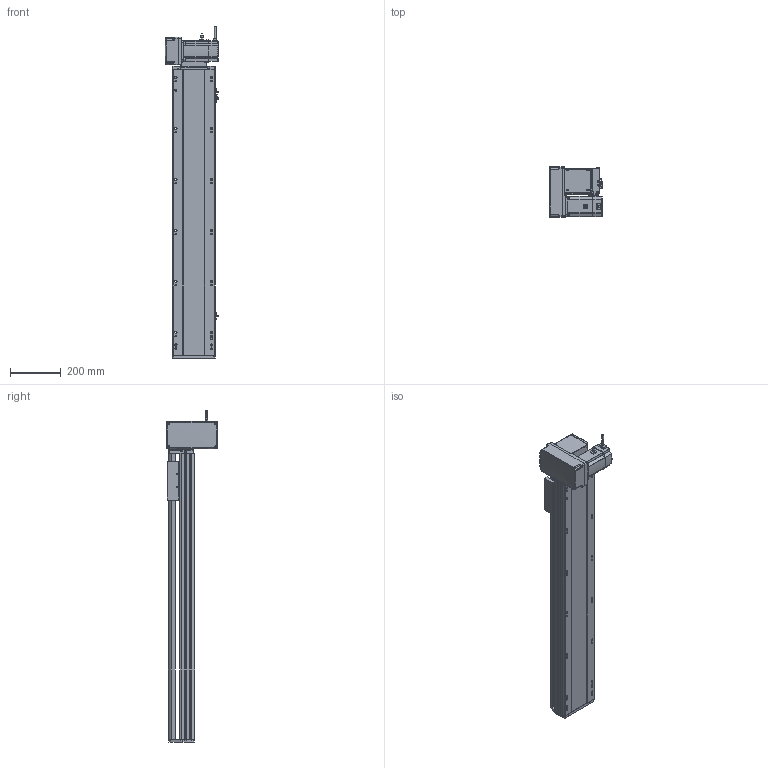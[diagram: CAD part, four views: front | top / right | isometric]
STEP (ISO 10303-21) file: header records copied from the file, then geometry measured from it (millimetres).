
FILE_DESCRIPTION (( 'STEP AP214' ), '1' );
FILE_NAME ('RTB17S-XX-850-LM-M75-C4.STEP', '2025-12-12T00:37:19', ( '' ), ( '' ), 'SwSTEP 2.0', 'SolidWorks 2018', '' );
FILE_SCHEMA (( 'AUTOMOTIVE_DESIGN' ));
Length unit declared in the file: millimetre
Products named in the file (15): RTB17S-L-004-賑釱^RTB17S-賑釱_RTB17S-XX-XX-LM-M75-C4; RTB17-R-011菁釱^RTB17S-XX-XX-LM-M75-C4; RTB22S-GY-017P^RTB17S-LM-々湍釱蚾饜-750W_RTB17S-XX-XX-LM-M75-C4; RTB17S-賑釱^RTB17S-XX-XX-LM-M75-C4; 750W萇儂^RTB17S-XX-XX-LM-M75-C4; EE672^RTB17S-XX-XX-LM-M75-C4; RTB22S-GY-005P^RTB17S-LM-々湍釱蚾饜-750W_RTB17S-XX-XX-LM-M75-C4; RTB17S-L-001-耜醱啣^RTB17S-XX-XX-LM-M75-C4; RTH13-BL-012覜茼え俋离^RTB17S-賑釱_RTB17S-XX-XX-LM-M75-C4; RTB17S-L-014-T20-P75--々湍釱^RTB17S-LM-々湍釱蚾饜-750W_RTB17S-XX-XX-LM-M75-C4; RTB17S-L-007奻裔^RTB17S-XX-XX-LM-M75-C4; RTB22S-GY-018P^RTB17S-LM-々湍釱蚾饜-750W_RTB17S-XX-XX-LM-M75-C4; RTB17S-XX-850-LM-M75-C4; RTB17S-LM-々湍釱蚾饜-750W^RTB17S-XX-XX-LM-M75-C4; RTB22S-GY-008-M75--萇儂啣^RTB17S-LM-々湍釱蚾饜-750W_RTB17S-XX-XX-LM-M75-C4
Assembly tree (17 placements, depth 3):
  RTB17S-XX-850-LM-M75-C4
    RTB17-R-011菁釱^RTB17S-XX-XX-LM-M75-C4
    EE672^RTB17S-XX-XX-LM-M75-C4  x3
    RTB17S-L-001-耜醱啣^RTB17S-XX-XX-LM-M75-C4
    RTB17S-賑釱^RTB17S-XX-XX-LM-M75-C4
      RTB17S-L-004-賑釱^RTB17S-賑釱_RTB17S-XX-XX-LM-M75-C4
      RTH13-BL-012覜茼え俋离^RTB17S-賑釱_RTB17S-XX-XX-LM-M75-C4
    RTB17S-L-007奻裔^RTB17S-XX-XX-LM-M75-C4
    750W萇儂^RTB17S-XX-XX-LM-M75-C4
    RTB17S-LM-々湍釱蚾饜-750W^RTB17S-XX-XX-LM-M75-C4
      RTB17S-L-014-T20-P75--々湍釱^RTB17S-LM-々湍釱蚾饜-750W_RTB17S-XX-XX-LM-M75-C4
      RTB22S-GY-005P^RTB17S-LM-々湍釱蚾饜-750W_RTB17S-XX-XX-LM-M75-C4
      RTB22S-GY-017P^RTB17S-LM-々湍釱蚾饜-750W_RTB17S-XX-XX-LM-M75-C4  x2
      RTB22S-GY-008-M75--萇儂啣^RTB17S-LM-々湍釱蚾饜-750W_RTB17S-XX-XX-LM-M75-C4
      RTB22S-GY-018P^RTB17S-LM-々湍釱蚾饜-750W_RTB17S-XX-XX-LM-M75-C4
Bounding box: 210.4 x 200 x 1302.2 mm (x, y, z)
Volume: 11258223 mm3; surface area: 1888468.3 mm2
Topology: 17 solids, 17 shells, 2089 faces, 5782 edges, 3734 vertices
Faces by surface type: plane 970, cylinder 703, bspline 294, cone 110, sphere 8, torus 4
Entity records: 58102 total; most frequent: CARTESIAN_POINT 17046, ORIENTED_EDGE 8408, DIRECTION 7862, EDGE_CURVE 4204, AXIS2_PLACEMENT_3D 2754, VERTEX_POINT 2738, LINE 2354, VECTOR 2354
